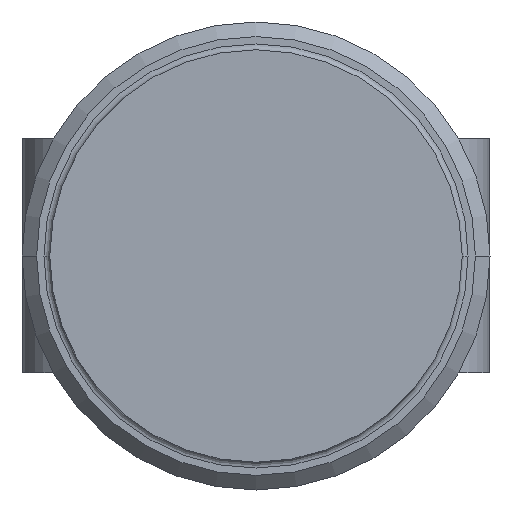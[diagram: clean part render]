
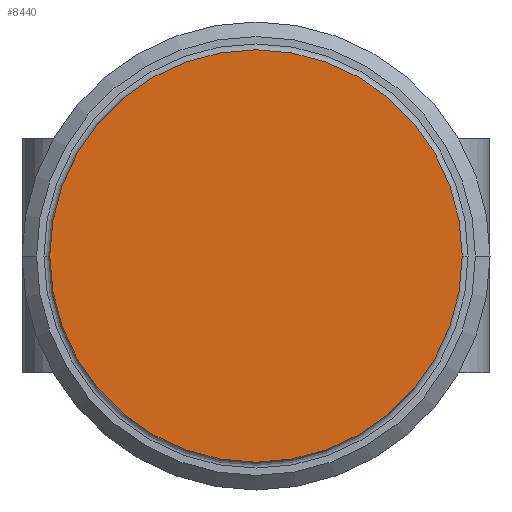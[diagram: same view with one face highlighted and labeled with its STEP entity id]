
A CAD part, left-side view. The second image highlights one B-rep face of the part: STEP entity #8440.
In plain terms, the highlighted planar face has unit normal (-1, 0, 0).
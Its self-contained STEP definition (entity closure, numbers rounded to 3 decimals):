
#8240=CARTESIAN_POINT('',(71.538,247.455,0.));
#8250=DIRECTION('',(-1.,0.,0.));
#8260=DIRECTION('',(0.,1.,0.));
#8270=AXIS2_PLACEMENT_3D('',#8240,#8250,#8260);
#8280=PLANE('',#8270);
#8290=CARTESIAN_POINT('',(71.538,243.93,0.));
#8300=DIRECTION('',(1.,0.,0.));
#8310=DIRECTION('',(0.,1.,0.));
#8320=AXIS2_PLACEMENT_3D('',#8290,#8300,#8310);
#8330=CIRCLE('',#8320,7.05);
#8340=CARTESIAN_POINT('',(71.538,250.98,0.));
#8350=VERTEX_POINT('',#8340);
#8360=CARTESIAN_POINT('',(71.538,236.88,
0.));
#8370=VERTEX_POINT('',#8360);
#8380=EDGE_CURVE('',#8350,#8370,#8330,.T.);
#8390=ORIENTED_EDGE('',*,*,#8380,.F.);
#8400=EDGE_CURVE('',#8370,#8350,#8330,.T.);
#8410=ORIENTED_EDGE('',*,*,#8400,.F.);
#8420=EDGE_LOOP('',(#8410,#8390));
#8430=FACE_OUTER_BOUND('',#8420,.T.);
#8440=ADVANCED_FACE('',(#8430),#8280,.T.);
